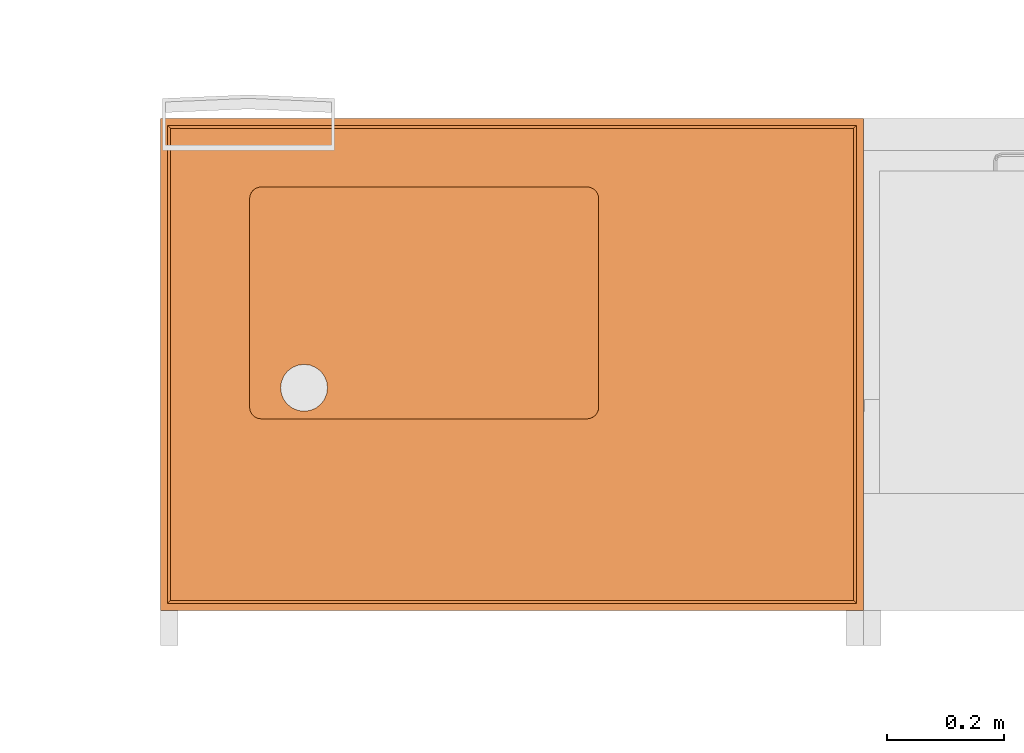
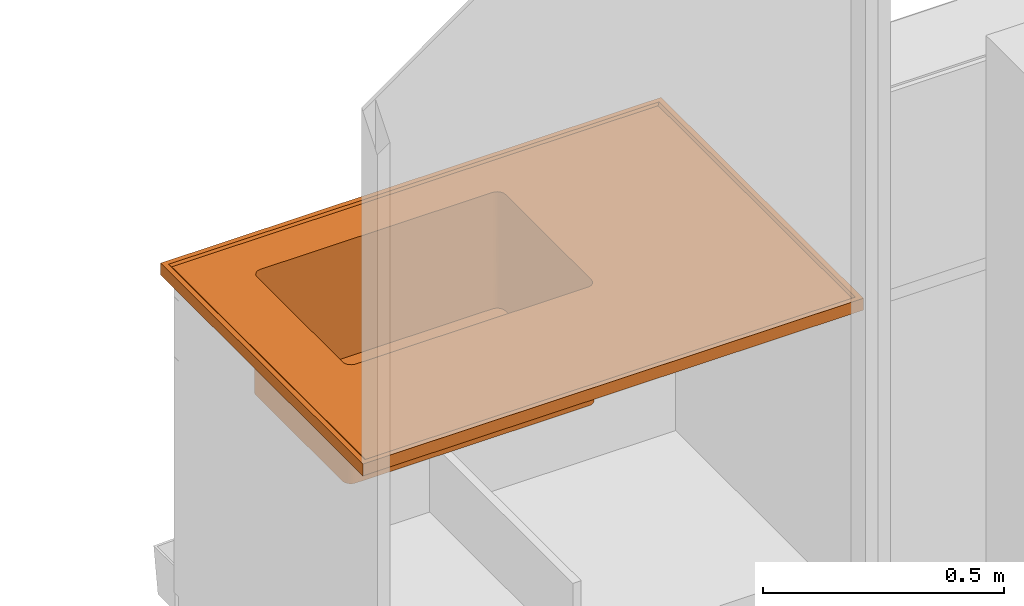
# One storey, part 24 of 32: 1 proxy.
"""IFC2X3 building model written with IfcOpenShell, lengths in metres."""

from ifc_helpers import new_model, entity, si_unit, converted_unit, derived_unit, direction, frame, origin, place, context, subcontext, project, spatial, faceted_brep, source, transform, mapped, material, type_object, type_shapes, element, save


model = new_model("IFC2X3")

# Units and contexts
model_context = context("Model", 3, precision=1e-05, world=origin(), true_north=direction((6.12303176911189e-17, 1.0)))
body_context = subcontext(model_context, "Body", "Model", "MODEL_VIEW")
ifc_project = project(units=[si_unit("LENGTHUNIT", "METRE"), si_unit("AREAUNIT", "SQUARE_METRE"), si_unit("VOLUMEUNIT", "CUBIC_METRE"), converted_unit("PLANEANGLEUNIT", "DEGREE", entity("IfcRatioMeasure", 0.0174532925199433), si_unit("PLANEANGLEUNIT", "RADIAN"), dimensions=[0, 0, 0, 0, 0, 0, 0]), si_unit("MASSUNIT", "GRAM", prefix="KILO"), derived_unit("MASSDENSITYUNIT", [(si_unit("MASSUNIT", "GRAM", prefix="KILO"), 1), (si_unit("LENGTHUNIT", "METRE"), -3)]), derived_unit("MOMENTOFINERTIAUNIT", [(si_unit("LENGTHUNIT", "METRE"), 4)]), si_unit("TIMEUNIT", "SECOND"), si_unit("FREQUENCYUNIT", "HERTZ"), si_unit("THERMODYNAMICTEMPERATUREUNIT", "DEGREE_CELSIUS"), derived_unit("THERMALTRANSMITTANCEUNIT", [(si_unit("MASSUNIT", "GRAM", prefix="KILO"), 1), (si_unit("THERMODYNAMICTEMPERATUREUNIT", "KELVIN"), -1), (si_unit("TIMEUNIT", "SECOND"), -3)]), derived_unit("VOLUMETRICFLOWRATEUNIT", [(si_unit("LENGTHUNIT", "METRE"), 3), (si_unit("TIMEUNIT", "SECOND"), -1)]), si_unit("ELECTRICCURRENTUNIT", "AMPERE"), si_unit("ELECTRICVOLTAGEUNIT", "VOLT"), si_unit("POWERUNIT", "WATT"), si_unit("FORCEUNIT", "NEWTON", prefix="KILO"), si_unit("ILLUMINANCEUNIT", "LUX"), si_unit("LUMINOUSFLUXUNIT", "LUMEN"), si_unit("LUMINOUSINTENSITYUNIT", "CANDELA"), derived_unit("USERDEFINED", [(si_unit("MASSUNIT", "GRAM", prefix="KILO"), -1), (si_unit("LENGTHUNIT", "METRE"), -2), (si_unit("TIMEUNIT", "SECOND"), 3), (si_unit("LUMINOUSFLUXUNIT", "LUMEN"), 1)]), derived_unit("LINEARVELOCITYUNIT", [(si_unit("LENGTHUNIT", "METRE"), 1), (si_unit("TIMEUNIT", "SECOND"), -1)]), si_unit("PRESSUREUNIT", "PASCAL"), derived_unit("USERDEFINED", [(si_unit("LENGTHUNIT", "METRE"), -2), (si_unit("MASSUNIT", "GRAM", prefix="KILO"), 1), (si_unit("TIMEUNIT", "SECOND"), -2)]), derived_unit("LINEARFORCEUNIT", [(si_unit("MASSUNIT", "GRAM", prefix="KILO"), 1), (si_unit("LENGTHUNIT", "METRE"), 1), (si_unit("TIMEUNIT", "SECOND"), -2), (si_unit("LENGTHUNIT", "METRE"), -1)]), derived_unit("PLANARFORCEUNIT", [(si_unit("MASSUNIT", "GRAM", prefix="KILO"), 1), (si_unit("LENGTHUNIT", "METRE"), 1), (si_unit("TIMEUNIT", "SECOND"), -2), (si_unit("LENGTHUNIT", "METRE"), -2)])], contexts=[model_context])

# Site, building, storey
site_placement = place(None, origin())
site = spatial("IfcSite", under=ifc_project, at=site_placement, Name="Default", CompositionType="ELEMENT")
building_placement = place(site_placement, origin())
building = spatial("IfcBuilding", under=site, at=building_placement, CompositionType="ELEMENT")
storey_placement = place(building_placement, origin())
storey = spatial("IfcBuildingStorey", under=building, at=storey_placement, Name="00 EG", CompositionType="ELEMENT", Elevation=0.0)

# Proxy
ifc_material = material(Name="Steinzeug")
building_element_proxy_type = type_object("IfcBuildingElementProxyType", Name="dh_Tischplatte Steinzeug Becken:dh_Tischplatte Steinzeug Becken", PredefinedType="NOTDEFINED", material=ifc_material)
shared_shape = source(origin(), body_context, "Body", "Brep", [
    faceted_brep([(0.16000000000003, 0.327679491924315, 0.0), (0.155857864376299, 0.330857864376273, 0.0), (0.150681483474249, 0.339823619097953, 0.0), (0.15000000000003, 0.345000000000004, 0.0), (0.16482361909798, 0.325681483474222, 0.0), (0.152679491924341, 0.335000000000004, 0.0), (0.17000000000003, 0.325000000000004, 0.0), (0.206362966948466, 0.369647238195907, 0.0), (0.205000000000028, 0.380000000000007, 0.0), (0.206362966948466, 0.390352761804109, 0.0), (0.210358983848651, 0.400000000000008, 0.0), (0.150000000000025, 0.705000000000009, 0.0), (0.216715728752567, 0.40828427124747, 0.0), (0.225000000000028, 0.414641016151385, 0.0), (0.234647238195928, 0.41863703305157, 0.0), (0.245000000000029, 0.420000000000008, 0.0), (0.255352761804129, 0.41863703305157, 0.0), (0.170000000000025, 0.725000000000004, 0.0), (0.164823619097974, 0.72431851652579, 0.0), (0.160000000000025, 0.722320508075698, 0.0), (0.150681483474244, 0.710176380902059, 0.0), (0.155857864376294, 0.71914213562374, 0.0), (0.152679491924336, 0.715000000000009, 0.0), (0.265000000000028, 0.414641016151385, 0.0), (0.27328427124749, 0.408284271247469, 0.0), (0.73000000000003, 0.725000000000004, 0.0), (0.279641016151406, 0.400000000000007, 0.0), (0.73000000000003, 0.325000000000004, 0.0), (0.75000000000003, 0.705000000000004, 0.0), (0.73517638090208, 0.724318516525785, 0.0), (0.74000000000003, 0.722320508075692, 0.0), (0.749318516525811, 0.710176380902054, 0.0), (0.744142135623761, 0.719142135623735, 0.0), (0.747320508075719, 0.715000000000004, 0.0), (0.75000000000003, 0.345000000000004, 0.0), (0.735176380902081, 0.325681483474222, 0.0), (0.74000000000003, 0.327679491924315, 0.0), (0.749318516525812, 0.339823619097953, 0.0), (0.744142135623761, 0.330857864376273, 0.0), (0.747320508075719, 0.335000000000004, 0.0), (0.255352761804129, 0.341362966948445, 0.0), (0.265000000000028, 0.34535898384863, 0.0), (0.27328427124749, 0.351715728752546, 0.0), (0.279641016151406, 0.360000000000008, 0.0), (0.283637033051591, 0.369647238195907, 0.0), (0.285000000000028, 0.380000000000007, 0.0), (0.283637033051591, 0.390352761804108, 0.0), (0.210358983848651, 0.360000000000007, 0.0), (0.216715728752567, 0.351715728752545, 0.0), (0.225000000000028, 0.34535898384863, 0.0), (0.234647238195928, 0.341362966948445, 0.0), (0.245000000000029, 0.340000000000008, 0.0), (0.742142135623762, 0.332857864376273, 0.3), (0.74732050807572, 0.335000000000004, 0.3), (0.74532050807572, 0.337000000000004, 0.3), (0.744142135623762, 0.330857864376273, 0.3), (0.740000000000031, 0.327679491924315, 0.3), (0.738000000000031, 0.329679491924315, 0.3), (0.735176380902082, 0.325681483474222, 0.3), (0.733176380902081, 0.327681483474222, 0.3), (0.730000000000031, 0.325000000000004, 0.3), (0.728000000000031, 0.327000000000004, 0.3), (0.172000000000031, 0.327000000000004, 0.300000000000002), (0.170000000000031, 0.325000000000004, 0.300000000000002), (0.166823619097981, 0.327681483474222, 0.300000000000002), (0.164823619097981, 0.325681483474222, 0.300000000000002), (0.162000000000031, 0.329679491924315, 0.300000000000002), (0.160000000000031, 0.327679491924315, 0.300000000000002), (0.1578578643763, 0.332857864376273, 0.300000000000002), (0.1558578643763, 0.330857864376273, 0.300000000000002), (0.152679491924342, 0.335000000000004, 0.300000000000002), (0.154679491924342, 0.337000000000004, 0.300000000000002), (0.15068148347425, 0.339823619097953, 0.300000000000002), (0.15268148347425, 0.341823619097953, 0.300000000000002), (0.150000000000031, 0.345000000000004, 0.300000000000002), (0.152000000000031, 0.347000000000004, 0.300000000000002), (0.152000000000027, 0.703000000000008, 0.300000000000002), (0.150000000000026, 0.705000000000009, 0.300000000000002), (0.152681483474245, 0.708176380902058, 0.300000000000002), (0.150681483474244, 0.710176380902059, 0.300000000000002), (0.154679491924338, 0.713000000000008, 0.300000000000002), (0.152679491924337, 0.715000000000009, 0.300000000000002), (0.157857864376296, 0.717142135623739, 0.300000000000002), (0.155857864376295, 0.71914213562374, 0.300000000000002), (0.160000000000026, 0.722320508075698, 0.300000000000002), (0.162000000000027, 0.720320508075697, 0.300000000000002), (0.164823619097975, 0.72431851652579, 0.300000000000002), (0.166823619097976, 0.72231851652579, 0.300000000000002), (0.170000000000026, 0.725000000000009, 0.300000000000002), (0.172000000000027, 0.723000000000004, 0.300000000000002), (0.730000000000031, 0.725000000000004, 0.3), (0.728000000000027, 0.723, 0.3), (0.733176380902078, 0.722318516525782, 0.3), (0.735176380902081, 0.724318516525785, 0.3), (0.738000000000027, 0.720320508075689, 0.3), (0.740000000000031, 0.722320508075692, 0.3), (0.742142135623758, 0.717142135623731, 0.3), (0.744142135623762, 0.719142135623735, 0.3), (0.747320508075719, 0.715000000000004, 0.3), (0.745320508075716, 0.713, 0.3), (0.749318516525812, 0.710176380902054, 0.3), (0.747318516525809, 0.708176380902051, 0.3), (0.750000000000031, 0.705000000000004, 0.3), (0.748000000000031, 0.703, 0.3), (0.750000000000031, 0.345000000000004, 0.3), (0.748000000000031, 0.347000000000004, 0.3), (0.747318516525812, 0.341823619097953, 0.3), (0.749318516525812, 0.339823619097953, 0.3), (0.170000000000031, 0.325000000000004, 0.150000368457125), (0.730000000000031, 0.325000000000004, 0.15000042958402), (0.150000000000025, 0.705000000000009, 0.150000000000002), (0.150000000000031, 0.345000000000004, 0.150000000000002), (0.73000000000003, 0.725000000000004, 0.15), (0.170000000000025, 0.725000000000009, 0.150000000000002), (0.750000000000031, 0.345000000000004, 0.15), (0.75000000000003, 0.705000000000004, 0.15), (0.152681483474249, 0.341823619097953, 0.00500000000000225), (0.157857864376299, 0.332857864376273, 0.00500000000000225), (0.16200000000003, 0.329679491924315, 0.00500000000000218), (0.154679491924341, 0.337000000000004, 0.00500000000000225), (0.15200000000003, 0.347000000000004, 0.00500000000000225), (0.16682361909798, 0.327681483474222, 0.00500000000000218), (0.17200000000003, 0.327000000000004, 0.00500000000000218), (0.206362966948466, 0.369647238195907, 0.00500000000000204), (0.210358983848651, 0.360000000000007, 0.00500000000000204), (0.216715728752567, 0.351715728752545, 0.00500000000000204), (0.225000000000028, 0.34535898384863, 0.00500000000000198), (0.234647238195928, 0.341362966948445, 0.00500000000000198), (0.245000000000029, 0.340000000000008, 0.00500000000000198), (0.255352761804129, 0.341362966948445, 0.00500000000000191), (0.72800000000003, 0.327000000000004, 0.00500000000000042), (0.265000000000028, 0.34535898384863, 0.00500000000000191), (0.27328427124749, 0.351715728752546, 0.00500000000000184), (0.279641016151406, 0.360000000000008, 0.00500000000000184), (0.283637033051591, 0.369647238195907, 0.00500000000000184), (0.285000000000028, 0.380000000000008, 0.00500000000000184), (0.283637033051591, 0.390352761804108, 0.00500000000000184), (0.279641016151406, 0.400000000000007, 0.00500000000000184), (0.728000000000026, 0.723, 0.00500000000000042), (0.748000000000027, 0.703, 0.00500000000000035), (0.74800000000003, 0.347000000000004, 0.00500000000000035), (0.733176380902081, 0.327681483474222, 0.00500000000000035), (0.73800000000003, 0.329679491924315, 0.00500000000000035), (0.747318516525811, 0.341823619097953, 0.00500000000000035), (0.742142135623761, 0.332857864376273, 0.00500000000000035), (0.745320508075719, 0.337000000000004, 0.00500000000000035), (0.733176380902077, 0.722318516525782, 0.00500000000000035), (0.738000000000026, 0.720320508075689, 0.00500000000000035), (0.747318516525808, 0.708176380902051, 0.00500000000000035), (0.742142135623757, 0.717142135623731, 0.00500000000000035), (0.745320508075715, 0.713000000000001, 0.00500000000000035), (0.27328427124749, 0.408284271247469, 0.00500000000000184), (0.172000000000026, 0.723000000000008, 0.00500000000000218), (0.265000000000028, 0.414641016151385, 0.00500000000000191), (0.255352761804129, 0.41863703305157, 0.00500000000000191), (0.152000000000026, 0.703000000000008, 0.00500000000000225), (0.166823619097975, 0.72231851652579, 0.00500000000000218), (0.162000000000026, 0.720320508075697, 0.00500000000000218), (0.152681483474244, 0.708176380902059, 0.00500000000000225), (0.157857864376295, 0.717142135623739, 0.00500000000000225), (0.154679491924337, 0.713000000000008, 0.00500000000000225), (0.210358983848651, 0.400000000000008, 0.00500000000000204), (0.216715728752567, 0.40828427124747, 0.00500000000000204), (0.225000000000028, 0.414641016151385, 0.00500000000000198), (0.234647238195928, 0.41863703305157, 0.00500000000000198), (0.245000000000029, 0.420000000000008, 0.00500000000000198), (0.205000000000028, 0.380000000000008, 0.00500000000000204), (0.206362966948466, 0.390352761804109, 0.00500000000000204), (0.728000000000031, 0.327000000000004, 0.1525), (0.172000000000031, 0.327000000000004, 0.152499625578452), (0.152000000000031, 0.347000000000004, 0.152500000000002), (0.152000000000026, 0.703000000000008, 0.152500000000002), (0.172000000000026, 0.723000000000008, 0.152500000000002), (0.728000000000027, 0.723, 0.1525), (0.748000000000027, 0.703, 0.1525), (0.748000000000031, 0.347000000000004, 0.1525), (0.164346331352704, 0.328522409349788, 0.152499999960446), (0.152384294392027, 0.343098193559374, 0.18766218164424), (0.153522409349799, 0.339346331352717, 0.152499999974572), (0.168098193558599, 0.32738429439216, 0.117337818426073), (0.159824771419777, 0.33113293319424, 0.136631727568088), (0.156132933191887, 0.334824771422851, 0.168368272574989), (0.153522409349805, 0.710653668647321, 0.15249999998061), (0.168098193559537, 0.72261570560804, 0.187662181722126), (0.164346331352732, 0.721477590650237, 0.152499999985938), (0.152384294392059, 0.706901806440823, 0.117337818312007), (0.156132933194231, 0.715175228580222, 0.136631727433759), (0.15982477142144, 0.718867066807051, 0.168368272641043), (0.735653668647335, 0.721477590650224, 0.152499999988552), (0.747615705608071, 0.706901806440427, 0.187662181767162), (0.746477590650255, 0.710653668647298, 0.1524999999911), (0.731901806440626, 0.72261570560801, 0.117337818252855), (0.740175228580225, 0.718867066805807, 0.136631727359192), (0.7438670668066, 0.715175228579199, 0.168368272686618), (0.746477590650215, 0.339346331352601, 0.152499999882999), (0.731901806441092, 0.327384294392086, 0.187662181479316), (0.735653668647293, 0.328522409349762, 0.152499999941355), (0.747615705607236, 0.343098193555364, 0.117337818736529), (0.743867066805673, 0.334824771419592, 0.136631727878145), (0.740175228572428, 0.331132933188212, 0.168368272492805), (0.162346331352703, 0.326522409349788, 0.149999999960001), (0.151522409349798, 0.337346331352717, 0.14999999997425), (0.150384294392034, 0.341098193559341, 0.187055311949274), (0.166098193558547, 0.32538429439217, 0.112944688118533), (0.157824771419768, 0.329132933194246, 0.13191703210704), (0.154132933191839, 0.332824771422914, 0.16808296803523), (0.151522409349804, 0.712653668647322, 0.149999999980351), (0.162346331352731, 0.723477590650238, 0.149999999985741), (0.166098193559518, 0.724615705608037, 0.187055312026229), (0.150384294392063, 0.708901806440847, 0.112944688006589), (0.154132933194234, 0.717175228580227, 0.13191703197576), (0.157824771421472, 0.720867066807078, 0.16808296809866), (0.737653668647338, 0.723477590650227, 0.149999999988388), (0.748477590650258, 0.712653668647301, 0.14999999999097), (0.749615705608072, 0.708901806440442, 0.187055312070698), (0.733901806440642, 0.72461570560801, 0.112944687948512), (0.742175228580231, 0.720867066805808, 0.131917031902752), (0.745867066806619, 0.717175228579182, 0.168082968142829), (0.748477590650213, 0.337346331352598, 0.149999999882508), (0.737653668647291, 0.326522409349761, 0.149999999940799), (0.733901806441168, 0.325384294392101, 0.187055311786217), (0.749615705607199, 0.341098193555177, 0.112944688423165), (0.745867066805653, 0.332824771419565, 0.131917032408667), (0.742175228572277, 0.329132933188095, 0.168082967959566)], [[[0, 1, 2]], [[3, 0, 2]], [[4, 0, 3]], [[1, 5, 2]], [[3, 6, 4]], [[3, 7, 6]], [[8, 7, 3]], [[9, 8, 3]], [[10, 9, 3]], [[10, 3, 11]], [[10, 11, 12]], [[13, 12, 11]], [[11, 14, 13]], [[14, 11, 15]], [[15, 11, 16]], [[17, 16, 11]], [[18, 17, 11]], [[18, 11, 19]], [[11, 20, 19]], [[21, 19, 20]], [[22, 21, 20]], [[16, 17, 23]], [[23, 17, 24]], [[24, 17, 25]], [[25, 26, 24]], [[27, 26, 25]], [[27, 25, 28]], [[29, 28, 25]], [[28, 29, 30]], [[28, 30, 31]], [[31, 30, 32]], [[33, 31, 32]], [[34, 27, 28]], [[35, 27, 34]], [[36, 35, 34]], [[37, 36, 34]], [[38, 36, 37]], [[37, 39, 38]], [[27, 6, 40]], [[27, 40, 41]], [[27, 41, 42]], [[43, 27, 42]], [[27, 43, 44]], [[27, 44, 45]], [[46, 27, 45]], [[26, 27, 46]], [[6, 7, 47]], [[48, 6, 47]], [[6, 48, 49]], [[49, 50, 6]], [[50, 51, 6]], [[40, 6, 51]], [[52, 53, 54]], [[55, 53, 52]], [[55, 52, 56]], [[57, 56, 52]], [[58, 56, 57]], [[57, 59, 58]], [[60, 58, 59]], [[61, 60, 59]], [[62, 60, 61]], [[60, 62, 63]], [[63, 62, 64]], [[65, 63, 64]], [[66, 65, 64]], [[66, 67, 65]], [[66, 68, 67]], [[69, 67, 68]], [[69, 68, 70]], [[68, 71, 70]], [[72, 70, 71]], [[72, 71, 73]], [[73, 74, 72]], [[74, 73, 75]], [[76, 74, 75]], [[74, 76, 77]], [[77, 76, 78]], [[79, 77, 78]], [[79, 78, 80]], [[80, 81, 79]], [[80, 82, 81]], [[83, 81, 82]], [[84, 83, 82]], [[84, 82, 85]], [[86, 84, 85]], [[86, 85, 87]], [[86, 87, 88]], [[88, 87, 89]], [[90, 88, 89]], [[89, 91, 90]], [[92, 90, 91]], [[92, 93, 90]], [[93, 92, 94]], [[93, 94, 95]], [[95, 94, 96]], [[97, 95, 96]], [[97, 96, 98]], [[99, 98, 96]], [[99, 100, 98]], [[99, 101, 100]], [[100, 101, 102]], [[101, 103, 102]], [[104, 102, 103]], [[103, 105, 104]], [[104, 105, 106]], [[106, 107, 104]], [[106, 54, 107]], [[107, 54, 53]], [[60, 63, 108, 6, 27, 109]], [[77, 110, 11, 3, 111, 74]], [[90, 112, 25, 17, 113, 88]], [[104, 114, 34, 28, 115, 102]], [[116, 117, 118]], [[116, 119, 117]], [[116, 118, 120]], [[120, 118, 121]], [[121, 122, 120]], [[122, 123, 120]], [[124, 123, 122]], [[124, 122, 125]], [[126, 125, 122]], [[122, 127, 126]], [[122, 128, 127]], [[128, 122, 129]], [[129, 122, 130]], [[131, 129, 130]], [[132, 131, 130]], [[132, 130, 133]], [[134, 133, 130]], [[135, 134, 130]], [[135, 130, 136]], [[136, 130, 137]], [[138, 137, 130]], [[139, 138, 130]], [[139, 130, 140]], [[140, 130, 141]], [[140, 141, 142]], [[140, 142, 143]], [[143, 142, 144]], [[144, 145, 143]], [[138, 139, 146]], [[147, 146, 139]], [[148, 147, 139]], [[149, 147, 148]], [[149, 148, 150]], [[151, 137, 138]], [[138, 152, 151]], [[151, 152, 153]], [[153, 152, 154]], [[155, 154, 152]], [[155, 152, 156]], [[157, 155, 156]], [[157, 158, 155]], [[158, 157, 159]], [[158, 159, 160]], [[155, 120, 161]], [[162, 155, 161]], [[155, 162, 163]], [[163, 164, 155]], [[165, 155, 164]], [[154, 155, 165]], [[120, 123, 166]], [[120, 166, 167]], [[120, 167, 161]], [[62, 61, 168, 130, 122, 169]], [[75, 170, 120, 155, 171, 76]], [[91, 89, 172, 152, 138, 173]], [[105, 103, 174, 139, 140, 175]], [[44, 134, 135, 45]], [[43, 133, 134, 44]], [[131, 132, 42, 41]], [[43, 42, 132, 133]], [[129, 131, 41, 40]], [[128, 129, 40, 51]], [[50, 127, 128, 51]], [[49, 126, 127, 50]], [[124, 125, 48, 47]], [[49, 48, 125, 126]], [[123, 124, 47, 7]], [[166, 123, 7, 8]], [[9, 167, 166, 8]], [[10, 161, 167, 9]], [[163, 162, 12, 13]], [[10, 12, 162, 161]], [[164, 163, 13, 14]], [[165, 164, 14, 15]], [[16, 154, 165, 15]], [[23, 153, 154, 16]], [[137, 151, 24, 26]], [[23, 24, 151, 153]], [[136, 137, 26, 46]], [[135, 136, 46, 45]], [[176, 121, 118]], [[116, 177, 178]], [[122, 179, 169]], [[180, 176, 118]], [[118, 117, 180]], [[179, 121, 176]], [[177, 75, 73]], [[169, 64, 62]], [[66, 64, 176]], [[121, 179, 122]], [[66, 176, 180]], [[75, 177, 170]], [[178, 119, 116]], [[181, 180, 117]], [[68, 180, 181]], [[116, 120, 170]], [[117, 119, 181]], [[181, 178, 71]], [[169, 179, 64]], [[178, 73, 71]], [[178, 177, 73]], [[66, 180, 68]], [[170, 177, 116]], [[119, 178, 181]], [[64, 179, 176]], [[181, 71, 68]], [[182, 158, 160]], [[156, 183, 184]], [[155, 185, 171]], [[186, 182, 160]], [[160, 159, 186]], [[185, 158, 182]], [[183, 89, 87]], [[171, 78, 76]], [[80, 78, 182]], [[158, 185, 155]], [[80, 182, 186]], [[89, 183, 172]], [[184, 157, 156]], [[187, 186, 159]], [[82, 186, 187]], [[156, 152, 172]], [[159, 157, 187]], [[187, 184, 85]], [[171, 185, 78]], [[184, 87, 85]], [[184, 183, 87]], [[80, 186, 82]], [[172, 183, 156]], [[157, 184, 187]], [[78, 185, 182]], [[187, 85, 82]], [[188, 146, 147]], [[148, 189, 190]], [[138, 191, 173]], [[192, 188, 147]], [[147, 149, 192]], [[191, 146, 188]], [[189, 103, 101]], [[173, 92, 91]], [[94, 92, 188]], [[146, 191, 138]], [[94, 188, 192]], [[103, 189, 174]], [[190, 150, 148]], [[193, 192, 149]], [[96, 192, 193]], [[148, 139, 174]], [[149, 150, 193]], [[193, 190, 99]], [[173, 191, 92]], [[190, 101, 99]], [[190, 189, 101]], [[94, 192, 96]], [[174, 189, 148]], [[150, 190, 193]], [[92, 191, 188]], [[193, 99, 96]], [[194, 143, 145]], [[141, 195, 196]], [[140, 197, 175]], [[198, 194, 145]], [[145, 144, 198]], [[197, 143, 194]], [[195, 61, 59]], [[175, 106, 105]], [[54, 106, 194]], [[143, 197, 140]], [[54, 194, 198]], [[61, 195, 168]], [[196, 142, 141]], [[199, 198, 144]], [[52, 198, 199]], [[141, 130, 168]], [[144, 142, 199]], [[199, 196, 57]], [[175, 197, 106]], [[196, 59, 57]], [[196, 195, 59]], [[54, 198, 52]], [[168, 195, 141]], [[142, 196, 199]], [[106, 197, 194]], [[199, 57, 52]], [[0, 4, 200]], [[201, 202, 2]], [[108, 203, 6]], [[0, 200, 204]], [[204, 1, 0]], [[200, 4, 203]], [[72, 74, 202]], [[63, 65, 108]], [[200, 65, 67]], [[6, 203, 4]], [[204, 200, 67]], [[111, 202, 74]], [[2, 5, 201]], [[1, 204, 205]], [[205, 204, 69]], [[111, 3, 2]], [[205, 5, 1]], [[70, 201, 205]], [[65, 203, 108]], [[70, 72, 201]], [[72, 202, 201]], [[69, 204, 67]], [[2, 202, 111]], [[205, 201, 5]], [[200, 203, 65]], [[69, 70, 205]], [[22, 20, 206]], [[207, 208, 18]], [[110, 209, 11]], [[22, 206, 210]], [[210, 21, 22]], [[206, 20, 209]], [[86, 88, 208]], [[77, 79, 110]], [[206, 79, 81]], [[11, 209, 20]], [[210, 206, 81]], [[113, 208, 88]], [[18, 19, 207]], [[21, 210, 211]], [[211, 210, 83]], [[113, 17, 18]], [[211, 19, 21]], [[84, 207, 211]], [[79, 209, 110]], [[84, 86, 207]], [[86, 208, 207]], [[83, 210, 81]], [[18, 208, 113]], [[211, 207, 19]], [[206, 209, 79]], [[83, 84, 211]], [[30, 29, 212]], [[213, 214, 31]], [[112, 215, 25]], [[30, 212, 216]], [[216, 32, 30]], [[212, 29, 215]], [[100, 102, 214]], [[90, 93, 112]], [[212, 93, 95]], [[25, 215, 29]], [[216, 212, 95]], [[115, 214, 102]], [[31, 33, 213]], [[32, 216, 217]], [[217, 216, 97]], [[115, 28, 31]], [[217, 33, 32]], [[98, 213, 217]], [[93, 215, 112]], [[98, 100, 213]], [[100, 214, 213]], [[97, 216, 95]], [[31, 214, 115]], [[217, 213, 33]], [[212, 215, 93]], [[97, 98, 217]], [[39, 37, 218]], [[219, 220, 35]], [[114, 221, 34]], [[39, 218, 222]], [[222, 38, 39]], [[218, 37, 221]], [[58, 60, 220]], [[104, 107, 114]], [[218, 107, 53]], [[34, 221, 37]], [[222, 218, 53]], [[109, 220, 60]], [[35, 36, 219]], [[38, 222, 223]], [[223, 222, 55]], [[109, 27, 35]], [[223, 36, 38]], [[56, 219, 223]], [[107, 221, 114]], [[56, 58, 219]], [[58, 220, 219]], [[55, 222, 53]], [[35, 220, 109]], [[223, 219, 36]], [[218, 221, 107]], [[55, 56, 223]]]),
    faceted_brep([(0.747318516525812, 0.341823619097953, 0.3), (0.74532050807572, 0.337000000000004, 0.3), (1.18299999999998, 0.017000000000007, 0.299999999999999), (0.748000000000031, 0.347000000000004, 0.3), (0.742142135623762, 0.332857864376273, 0.300000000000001), (0.738000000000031, 0.329679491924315, 0.300000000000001), (0.733176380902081, 0.327681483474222, 0.300000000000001), (0.728000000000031, 0.327000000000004, 0.300000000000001), (0.0170000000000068, 0.017000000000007, 0.300000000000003), (0.172000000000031, 0.327000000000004, 0.300000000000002), (0.166823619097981, 0.327681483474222, 0.300000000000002), (0.162000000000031, 0.329679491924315, 0.300000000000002), (0.1578578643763, 0.332857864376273, 0.300000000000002), (0.154679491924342, 0.337000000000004, 0.300000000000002), (0.15268148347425, 0.341823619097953, 0.300000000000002), (0.152000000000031, 0.347000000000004, 0.300000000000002), (0.0170000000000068, 0.823000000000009, 0.300000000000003), (0.152000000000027, 0.703000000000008, 0.300000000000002), (0.152681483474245, 0.708176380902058, 0.300000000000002), (0.154679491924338, 0.713000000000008, 0.300000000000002), (0.157857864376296, 0.717142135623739, 0.300000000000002), (0.162000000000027, 0.720320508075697, 0.300000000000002), (0.166823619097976, 0.72231851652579, 0.300000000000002), (0.172000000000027, 0.723000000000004, 0.300000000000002), (0.728000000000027, 0.723, 0.300000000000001), (1.18299999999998, 0.823000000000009, 0.299999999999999), (0.733176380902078, 0.722318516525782, 0.300000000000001), (0.738000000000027, 0.720320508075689, 0.300000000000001), (0.742142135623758, 0.717142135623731, 0.300000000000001), (0.745320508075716, 0.713, 0.3), (0.747318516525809, 0.708176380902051, 0.3), (0.748000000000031, 0.703, 0.3), (0.15268148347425, 0.341823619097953, 0.275000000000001), (0.154679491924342, 0.337000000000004, 0.275000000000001), (0.0, 0.0, 0.275000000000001), (0.152000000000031, 0.347000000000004, 0.275000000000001), (0.1578578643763, 0.332857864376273, 0.275000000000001), (0.162000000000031, 0.329679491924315, 0.275000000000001), (0.16682361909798, 0.327681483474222, 0.275000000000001), (0.172000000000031, 0.327000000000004, 0.275000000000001), (0.728000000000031, 0.327000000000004, 0.274999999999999), (1.19999999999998, 0.0, 0.274999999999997), (0.733176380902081, 0.327681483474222, 0.274999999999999), (0.738000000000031, 0.329679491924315, 0.274999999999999), (0.742142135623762, 0.332857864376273, 0.274999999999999), (0.74532050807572, 0.337000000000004, 0.274999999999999), (0.747318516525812, 0.341823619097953, 0.274999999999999), (0.748000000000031, 0.347000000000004, 0.274999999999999), (1.19999999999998, 0.840000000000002, 0.274999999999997), (0.748000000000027, 0.703, 0.274999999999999), (0.747318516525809, 0.708176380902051, 0.274999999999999), (0.745320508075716, 0.713, 0.274999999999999), (0.742142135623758, 0.717142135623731, 0.274999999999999), (0.738000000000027, 0.720320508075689, 0.274999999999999), (0.733176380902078, 0.722318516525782, 0.274999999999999), (0.728000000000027, 0.723, 0.274999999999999), (0.0, 0.840000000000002, 0.275000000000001), (0.172000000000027, 0.723000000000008, 0.275000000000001), (0.166823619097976, 0.72231851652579, 0.275000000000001), (0.162000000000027, 0.720320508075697, 0.275000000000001), (0.157857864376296, 0.717142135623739, 0.275000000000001), (0.154679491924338, 0.713000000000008, 0.275000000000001), (0.152681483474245, 0.708176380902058, 0.275000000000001), (0.152000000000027, 0.703000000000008, 0.275000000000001), (1.19999999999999, 0.0, 0.304999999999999), (0.0, 0.0, 0.305000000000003), (0.0, 0.840000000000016, 0.305000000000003), (1.19999999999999, 0.840000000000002, 0.304999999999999), (0.0120000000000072, 0.0120000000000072, 0.305000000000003), (1.18799999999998, 0.0120000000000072, 0.304999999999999), (1.18799999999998, 0.828000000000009, 0.304999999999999), (0.0120000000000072, 0.828000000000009, 0.305000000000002)], [[[0, 1, 2]], [[2, 3, 0]], [[4, 2, 1]], [[2, 4, 5]], [[2, 5, 6]], [[2, 6, 7]], [[7, 8, 2]], [[8, 7, 9]], [[8, 9, 10]], [[11, 8, 10]], [[8, 11, 12]], [[12, 13, 8]], [[14, 8, 13]], [[8, 14, 15]], [[15, 16, 8]], [[16, 15, 17]], [[16, 17, 18]], [[18, 19, 16]], [[20, 16, 19]], [[16, 20, 21]], [[22, 16, 21]], [[16, 22, 23]], [[24, 16, 23]], [[16, 24, 25]], [[25, 24, 26]], [[25, 26, 27]], [[25, 27, 28]], [[28, 29, 25]], [[30, 25, 29]], [[25, 30, 31]], [[3, 25, 31]], [[25, 3, 2]], [[32, 33, 34]], [[34, 35, 32]], [[36, 34, 33]], [[34, 36, 37]], [[34, 37, 38]], [[34, 38, 39]], [[39, 40, 34]], [[41, 34, 40]], [[41, 40, 42]], [[43, 41, 42]], [[41, 43, 44]], [[44, 45, 41]], [[46, 41, 45]], [[41, 46, 47]], [[47, 48, 41]], [[48, 47, 49]], [[48, 49, 50]], [[50, 51, 48]], [[52, 48, 51]], [[48, 52, 53]], [[54, 48, 53]], [[48, 54, 55]], [[56, 48, 55]], [[55, 57, 56]], [[56, 57, 58]], [[56, 58, 59]], [[56, 59, 60]], [[60, 61, 56]], [[62, 56, 61]], [[56, 62, 63]], [[35, 56, 63]], [[56, 35, 34]], [[34, 41, 64, 65]], [[56, 34, 65, 66]], [[56, 66, 67, 48]], [[48, 67, 64, 41]], [[2, 8, 68, 69]], [[25, 2, 69, 70]], [[16, 25, 70, 71]], [[8, 16, 71, 68]], [[71, 70, 67]], [[67, 66, 71]], [[68, 71, 66]], [[69, 67, 70]], [[68, 64, 69]], [[67, 69, 64]], [[64, 68, 65]], [[66, 65, 68]], [[9, 7, 40, 39]], [[17, 15, 35, 63]], [[24, 23, 57, 55]], [[3, 31, 49, 47]], [[10, 9, 39, 38]], [[11, 10, 38, 37]], [[12, 11, 37, 36]], [[13, 12, 36, 33]], [[13, 33, 32, 14]], [[35, 15, 14, 32]], [[18, 17, 63, 62]], [[19, 18, 62, 61]], [[20, 19, 61, 60]], [[22, 21, 59, 58]], [[22, 58, 57, 23]], [[60, 59, 21, 20]], [[26, 24, 55, 54]], [[27, 26, 54, 53]], [[28, 27, 53, 52]], [[30, 29, 51, 50]], [[30, 50, 49, 31]], [[52, 51, 29, 28]], [[0, 3, 47, 46]], [[1, 0, 46, 45]], [[4, 1, 45, 44]], [[5, 4, 44, 43]], [[5, 43, 42, 6]], [[40, 7, 6, 42]]]),
])
type_shapes(building_element_proxy_type, [shared_shape])
proxy_placement = place(storey_placement, frame((10.7499999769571, 10.2099999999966, 0.594999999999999)))
element("IfcBuildingElementProxy", 1, at=proxy_placement, inside=storey, type_object=building_element_proxy_type, material=ifc_material, Name="dh_Tischplatte Steinzeug Becken:dh_Tischplatte Steinzeug Becken", ObjectType="dh_Tischplatte Steinzeug Becken:dh_Tischplatte Steinzeug Becken", context=body_context, shape_type="MappedRepresentation", body=[
    mapped(shared_shape, transform((0.0, 0.0, 0.0), scale=1.0)),
])

save(model, "model.ifc")
